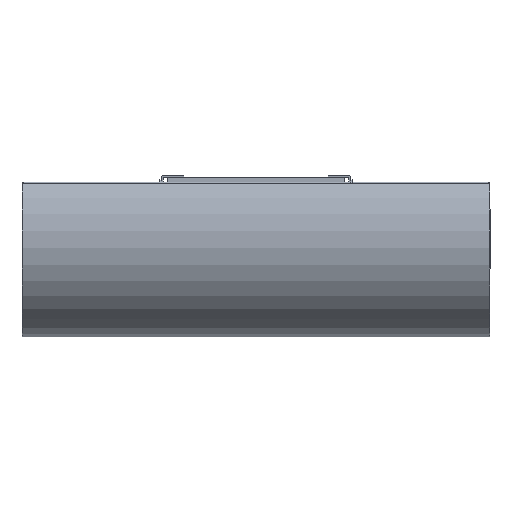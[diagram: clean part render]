
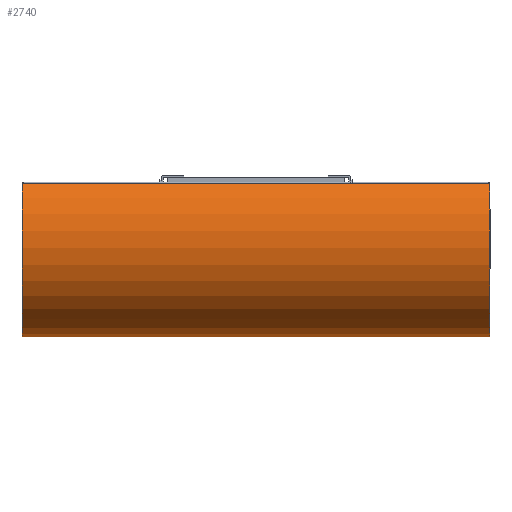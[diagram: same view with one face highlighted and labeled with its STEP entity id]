
A CAD part, left-side view. The second image highlights one B-rep face of the part: STEP entity #2740.
In plain terms, the highlighted cylindrical face has radius 77 mm (diameter 154 mm), a partial arc.
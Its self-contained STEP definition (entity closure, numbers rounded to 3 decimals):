
#337=FACE_OUTER_BOUND('',#507,.T.);
#507=EDGE_LOOP('',(#2511,#2512,#2513,#2514));
#628=CIRCLE('',#3024,77.);
#629=CIRCLE('',#3025,77.);
#880=LINE('',#5253,#1136);
#883=LINE('',#5261,#1139);
#1136=VECTOR('',#3818,304.8);
#1139=VECTOR('',#3825,304.8);
#1389=VERTEX_POINT('',#5249);
#1391=VERTEX_POINT('',#5252);
#1393=VERTEX_POINT('',#5258);
#1394=VERTEX_POINT('',#5260);
#1772=EDGE_CURVE('',#1391,#1389,#880,.T.);
#1775=EDGE_CURVE('',#1393,#1389,#628,.T.);
#1776=EDGE_CURVE('',#1394,#1393,#883,.T.);
#1777=EDGE_CURVE('',#1391,#1394,#629,.T.);
#2511=ORIENTED_EDGE('',*,*,#1775,.F.);
#2512=ORIENTED_EDGE('',*,*,#1776,.F.);
#2513=ORIENTED_EDGE('',*,*,#1777,.F.);
#2514=ORIENTED_EDGE('',*,*,#1772,.T.);
#2589=CYLINDRICAL_SURFACE('',#3023,77.);
#2740=ADVANCED_FACE('',(#337),#2589,.T.);
#3023=AXIS2_PLACEMENT_3D('',#5257,#3821,#3822);
#3024=AXIS2_PLACEMENT_3D('',#5259,#3823,#3824);
#3025=AXIS2_PLACEMENT_3D('',#5262,#3826,#3827);
#3818=DIRECTION('',(1.,0.,0.));
#3821=DIRECTION('center_axis',(1.,0.,0.));
#3822=DIRECTION('ref_axis',(0.,0.,-1.));
#3823=DIRECTION('center_axis',(1.,0.,0.));
#3824=DIRECTION('ref_axis',(0.,-1.,0.));
#3825=DIRECTION('',(1.,0.,0.));
#3826=DIRECTION('center_axis',(-1.,0.,0.));
#3827=DIRECTION('ref_axis',(0.,-1.,0.));
#5249=CARTESIAN_POINT('',(370.,62.91,0.));
#5252=CARTESIAN_POINT('',(0.,62.91,0.));
#5253=CARTESIAN_POINT('',(0.,62.91,0.));
#5257=CARTESIAN_POINT('Origin',(0.,0.,-44.4));
#5258=CARTESIAN_POINT('',(370.,-62.91,0.));
#5259=CARTESIAN_POINT('Origin',(370.,0.,-44.4));
#5260=CARTESIAN_POINT('',(0.,-62.91,0.));
#5261=CARTESIAN_POINT('',(0.,-62.91,0.));
#5262=CARTESIAN_POINT('Origin',(0.,0.,-44.4));
